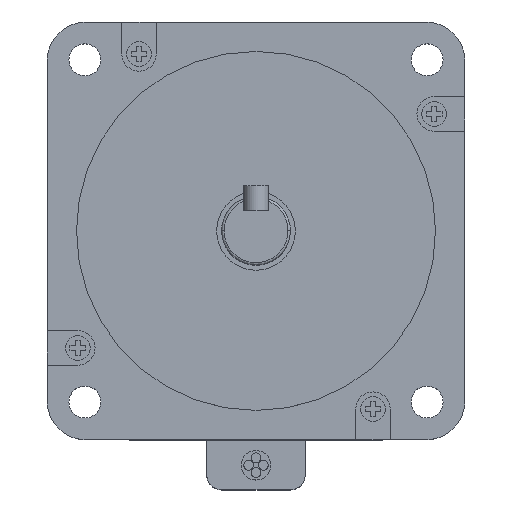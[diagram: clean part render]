
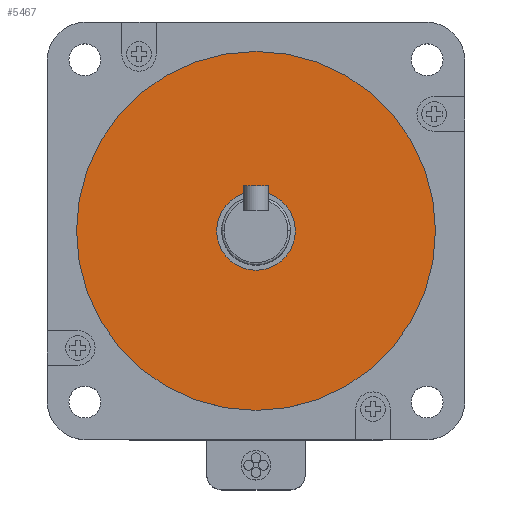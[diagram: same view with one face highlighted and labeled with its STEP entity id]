
A CAD part, top view. The second image highlights one B-rep face of the part: STEP entity #5467.
In plain terms, the highlighted planar face has unit normal (0, 0, 1).
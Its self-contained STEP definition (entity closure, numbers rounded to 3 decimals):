
#121 = CARTESIAN_POINT ( 'NONE',  ( 0., 0., 2. ) ) ;
#157 = EDGE_CURVE ( 'NONE', #1323, #2105, #1738, .T. ) ;
#209 = DIRECTION ( 'NONE',  ( 0., 0., 1. ) ) ;
#224 = AXIS2_PLACEMENT_3D ( 'NONE', #6983, #3182, #998 ) ;
#423 = FACE_BOUND ( 'NONE', #6882, .T. ) ;
#518 = CARTESIAN_POINT ( 'NONE',  ( -8., 0., 2. ) ) ;
#539 = DIRECTION ( 'NONE',  ( 0., 0., -1. ) ) ;
#688 = CIRCLE ( 'NONE', #6341, 36.513 ) ;
#998 = DIRECTION ( 'NONE',  ( -1., 0., 0. ) ) ;
#1037 = CARTESIAN_POINT ( 'NONE',  ( -36.513, 0., 2. ) ) ;
#1158 = EDGE_CURVE ( 'NONE', #2105, #1323, #3412, .T. ) ;
#1203 = ORIENTED_EDGE ( 'NONE', *, *, #1158, .T. ) ;
#1323 = VERTEX_POINT ( 'NONE', #4667 ) ;
#1738 = CIRCLE ( 'NONE', #4798, 8. ) ;
#1915 = CARTESIAN_POINT ( 'NONE',  ( 36.513, 0., 2. ) ) ;
#2059 = EDGE_LOOP ( 'NONE', ( #2081, #4090 ) ) ;
#2081 = ORIENTED_EDGE ( 'NONE', *, *, #5662, .F. ) ;
#2105 = VERTEX_POINT ( 'NONE', #518 ) ;
#2255 = DIRECTION ( 'NONE',  ( 0., 0., -1. ) ) ;
#2444 = AXIS2_PLACEMENT_3D ( 'NONE', #6588, #539, #3892 ) ;
#3182 = DIRECTION ( 'NONE',  ( 0., 0., -1. ) ) ;
#3277 = CARTESIAN_POINT ( 'NONE',  ( 0., 0., 2. ) ) ;
#3412 = CIRCLE ( 'NONE', #2444, 8. ) ;
#3892 = DIRECTION ( 'NONE',  ( -1., 0., 0. ) ) ;
#3901 = DIRECTION ( 'NONE',  ( -1., 0., 0. ) ) ;
#4090 = ORIENTED_EDGE ( 'NONE', *, *, #7065, .F. ) ;
#4135 = ORIENTED_EDGE ( 'NONE', *, *, #157, .T. ) ;
#4367 = FACE_OUTER_BOUND ( 'NONE', #2059, .T. ) ;
#4534 = AXIS2_PLACEMENT_3D ( 'NONE', #6741, #209, #5695 ) ;
#4556 = PLANE ( 'NONE',  #4534 ) ;
#4667 = CARTESIAN_POINT ( 'NONE',  ( 8., 0., 2. ) ) ;
#4798 = AXIS2_PLACEMENT_3D ( 'NONE', #121, #2255, #5079 ) ;
#5079 = DIRECTION ( 'NONE',  ( -1., 0., 0. ) ) ;
#5467 = ADVANCED_FACE ( 'NONE', ( #423, #4367 ), #4556, .T. ) ;
#5662 = EDGE_CURVE ( 'NONE', #6196, #7002, #688, .T. ) ;
#5665 = CIRCLE ( 'NONE', #224, 36.513 ) ;
#5695 = DIRECTION ( 'NONE',  ( 1., 0., 0. ) ) ;
#6069 = DIRECTION ( 'NONE',  ( 0., 0., -1. ) ) ;
#6196 = VERTEX_POINT ( 'NONE', #1037 ) ;
#6341 = AXIS2_PLACEMENT_3D ( 'NONE', #3277, #6069, #3901 ) ;
#6588 = CARTESIAN_POINT ( 'NONE',  ( 0., 0., 2. ) ) ;
#6741 = CARTESIAN_POINT ( 'NONE',  ( 0., 0., 2. ) ) ;
#6882 = EDGE_LOOP ( 'NONE', ( #1203, #4135 ) ) ;
#6983 = CARTESIAN_POINT ( 'NONE',  ( 0., 0., 2. ) ) ;
#7002 = VERTEX_POINT ( 'NONE', #1915 ) ;
#7065 = EDGE_CURVE ( 'NONE', #7002, #6196, #5665, .T. ) ;
